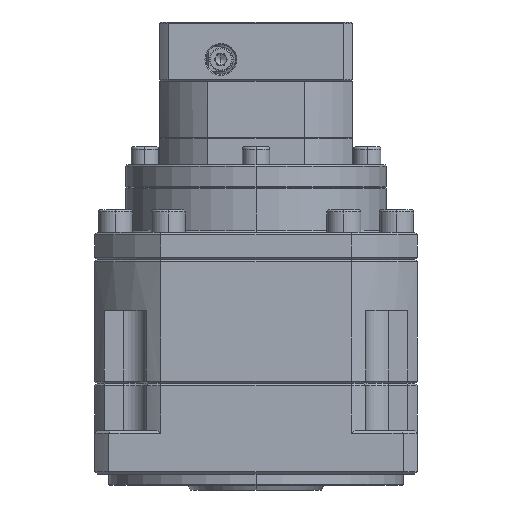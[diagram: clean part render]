
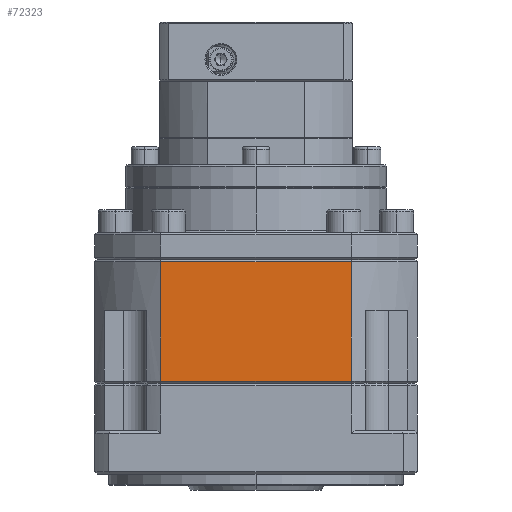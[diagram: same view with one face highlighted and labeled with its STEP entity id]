
A CAD part, left-side view. The second image highlights one B-rep face of the part: STEP entity #72323.
In plain terms, the highlighted planar face has unit normal (-1, 0, 0).
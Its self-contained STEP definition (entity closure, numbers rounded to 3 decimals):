
#5532 = DIRECTION ( 'NONE',  ( 0., 1., 0. ) ) ;
#5795 = LINE ( 'NONE', #45114, #11533 ) ;
#8312 = DIRECTION ( 'NONE',  ( 1., 0., 0. ) ) ;
#11533 = VECTOR ( 'NONE', #35543, 1000. ) ;
#13942 = ORIENTED_EDGE ( 'NONE', *, *, #91103, .T. ) ;
#19292 = EDGE_CURVE ( 'NONE', #92624, #27702, #54012, .T. ) ;
#27702 = VERTEX_POINT ( 'NONE', #48113 ) ;
#29285 = DIRECTION ( 'NONE',  ( 0., 0., 1. ) ) ;
#32840 = CARTESIAN_POINT ( 'NONE',  ( -45.723, 35.854, 4.8 ) ) ;
#34245 = ORIENTED_EDGE ( 'NONE', *, *, #19292, .F. ) ;
#35099 = VERTEX_POINT ( 'NONE', #38690 ) ;
#35543 = DIRECTION ( 'NONE',  ( 0., 0., -1. ) ) ;
#38034 = AXIS2_PLACEMENT_3D ( 'NONE', #100850, #8312, #92336 ) ;
#38434 = VECTOR ( 'NONE', #111171, 1000. ) ;
#38690 = CARTESIAN_POINT ( 'NONE',  ( -45.723, -48.176, 4.8 ) ) ;
#39826 = FACE_OUTER_BOUND ( 'NONE', #74013, .T. ) ;
#45114 = CARTESIAN_POINT ( 'NONE',  ( -45.723, -48.176, 241.479 ) ) ;
#48113 = CARTESIAN_POINT ( 'NONE',  ( -45.723, 35.854, 4.8 ) ) ;
#49227 = EDGE_CURVE ( 'NONE', #35099, #49228, #5795, .T. ) ;
#49228 = VERTEX_POINT ( 'NONE', #72216 ) ;
#54012 = LINE ( 'NONE', #85383, #81499 ) ;
#55185 = PLANE ( 'NONE',  #38034 ) ;
#56514 = LINE ( 'NONE', #32840, #102776 ) ;
#62974 = LINE ( 'NONE', #75565, #38434 ) ;
#63418 = ORIENTED_EDGE ( 'NONE', *, *, #114609, .T. ) ;
#66672 = CARTESIAN_POINT ( 'NONE',  ( -45.723, 35.854, -47.7 ) ) ;
#72216 = CARTESIAN_POINT ( 'NONE',  ( -45.723, -48.176, -47.7 ) ) ;
#72323 = ADVANCED_FACE ( 'NONE', ( #39826 ), #55185, .F. ) ;
#74013 = EDGE_LOOP ( 'NONE', ( #120008, #63418, #34245, #13942 ) ) ;
#75565 = CARTESIAN_POINT ( 'NONE',  ( -45.723, -77.161, -47.7 ) ) ;
#81499 = VECTOR ( 'NONE', #29285, 1000. ) ;
#85383 = CARTESIAN_POINT ( 'NONE',  ( -45.723, 35.854, 241.479 ) ) ;
#91103 = EDGE_CURVE ( 'NONE', #92624, #49228, #62974, .T. ) ;
#92336 = DIRECTION ( 'NONE',  ( 0., 0., -1. ) ) ;
#92624 = VERTEX_POINT ( 'NONE', #66672 ) ;
#100850 = CARTESIAN_POINT ( 'NONE',  ( -45.723, -77.161, 5.8 ) ) ;
#102776 = VECTOR ( 'NONE', #5532, 1000. ) ;
#111171 = DIRECTION ( 'NONE',  ( 0., -1., 0. ) ) ;
#114609 = EDGE_CURVE ( 'NONE', #35099, #27702, #56514, .T. ) ;
#120008 = ORIENTED_EDGE ( 'NONE', *, *, #49227, .F. ) ;
